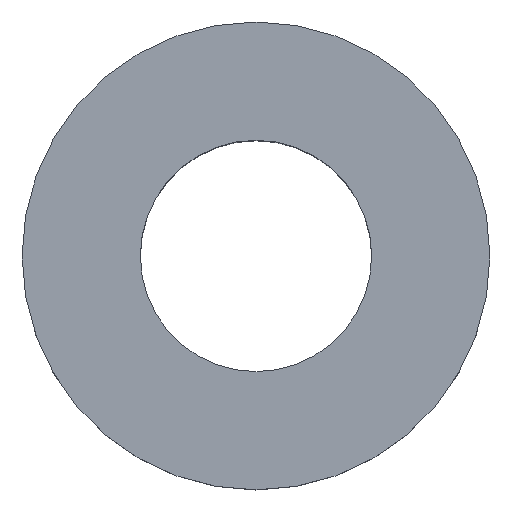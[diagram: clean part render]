
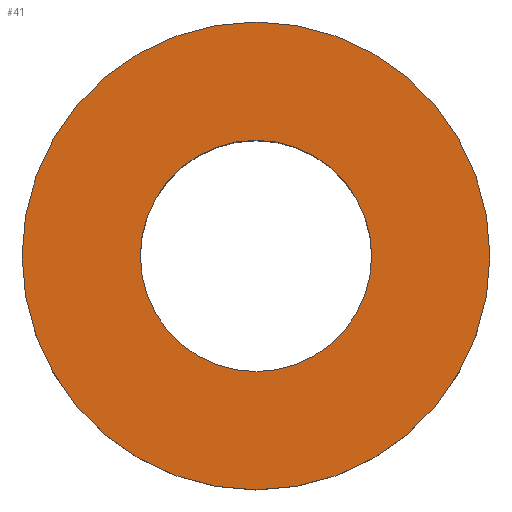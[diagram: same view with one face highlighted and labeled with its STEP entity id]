
A CAD part, top view. The second image highlights one B-rep face of the part: STEP entity #41.
In plain terms, the highlighted planar face has unit normal (0, 0, 1).
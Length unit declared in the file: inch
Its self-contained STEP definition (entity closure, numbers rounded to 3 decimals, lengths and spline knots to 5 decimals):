
#1 = EDGE_CURVE ( 'NONE', #80, #80, #92, .T. ) ;
#5 = CARTESIAN_POINT ( 'NONE',  ( 0., 0., 0. ) ) ;
#6 = DIRECTION ( 'NONE',  ( 0., 0., -1. ) ) ;
#10 = DIRECTION ( 'NONE',  ( 0., 0., 1. ) ) ;
#23 = DIRECTION ( 'NONE',  ( 1., 0., 0. ) ) ;
#39 = DIRECTION ( 'NONE',  ( 0., 0., 1. ) ) ;
#41 = ADVANCED_FACE ( 'NONE', ( #208, #100 ), #49, .F. ) ;
#49 = PLANE ( 'NONE',  #135 ) ;
#70 = DIRECTION ( 'NONE',  ( 1., 0., 0. ) ) ;
#73 = ORIENTED_EDGE ( 'NONE', *, *, #1, .T. ) ;
#79 = AXIS2_PLACEMENT_3D ( 'NONE', #227, #39, #23 ) ;
#80 = VERTEX_POINT ( 'NONE', #158 ) ;
#92 = CIRCLE ( 'NONE', #106, 1.625 ) ;
#100 = FACE_OUTER_BOUND ( 'NONE', #190, .T. ) ;
#101 = DIRECTION ( 'NONE',  ( -1., 0., 0. ) ) ;
#106 = AXIS2_PLACEMENT_3D ( 'NONE', #5, #10, #70 ) ;
#135 = AXIS2_PLACEMENT_3D ( 'NONE', #140, #6, #101 ) ;
#140 = CARTESIAN_POINT ( 'NONE',  ( 0., 0.80315, 0. ) ) ;
#142 = CIRCLE ( 'NONE', #79, 0.80315 ) ;
#149 = EDGE_LOOP ( 'NONE', ( #163 ) ) ;
#157 = VERTEX_POINT ( 'NONE', #195 ) ;
#158 = CARTESIAN_POINT ( 'NONE',  ( 1.625, 0., 0. ) ) ;
#163 = ORIENTED_EDGE ( 'NONE', *, *, #185, .F. ) ;
#185 = EDGE_CURVE ( 'NONE', #157, #157, #142, .T. ) ;
#190 = EDGE_LOOP ( 'NONE', ( #73 ) ) ;
#195 = CARTESIAN_POINT ( 'NONE',  ( 0.80315, 0., 0. ) ) ;
#208 = FACE_BOUND ( 'NONE', #149, .T. ) ;
#227 = CARTESIAN_POINT ( 'NONE',  ( 0., 0., 0. ) ) ;
